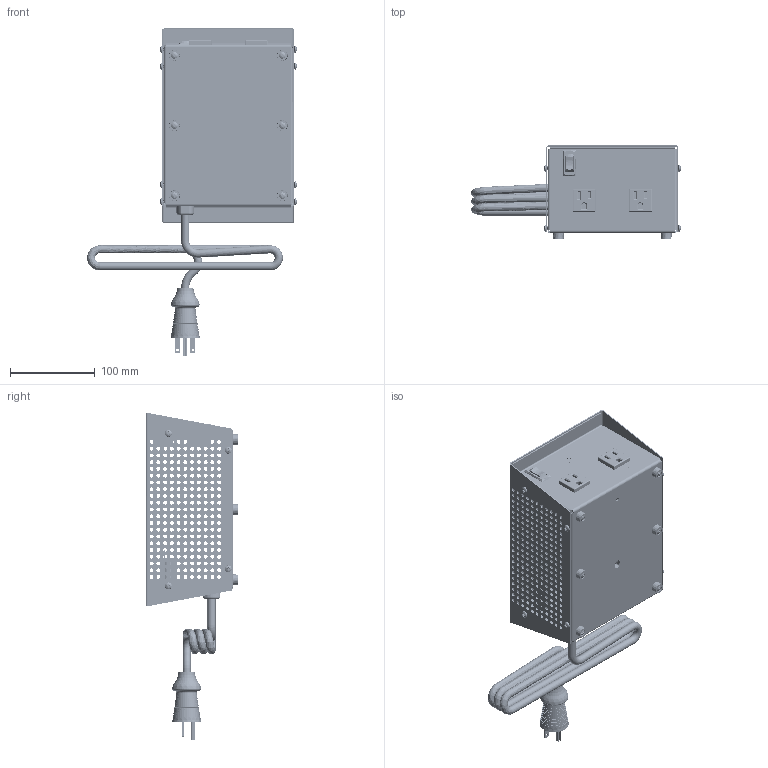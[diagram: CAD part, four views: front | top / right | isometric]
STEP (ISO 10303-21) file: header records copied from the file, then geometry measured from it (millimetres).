
FILE_DESCRIPTION(/* description */ (''),/* implementation_level */ '2;1');
FILE_NAME(/* name */ '289DT.stp',/* time_stamp */ '2026-06-02T15:23:34-04:00',/* author */ ('tfoster'),/* organization */ (''),/* preprocessor_version */ 'ST-DEVELOPER v20.1',/* originating_system */ 'Autodesk Inventor 2026',/* authorisation */ '');
FILE_SCHEMA (('AUTOMOTIVE_DESIGN { 1 0 10303 214 3 1 1 }'));
Products named in the file (11): 178ET; MTGR70760-2A; MTGR70763-1B; Receptacle; Power Switch Assembly; Power Switch; Power Switch pt; 240VAC plug; 5amp Reset Switch; Feet; 8-32 screw
Assembly tree (29 placements, depth 3):
  178ET
    MTGR70760-2A
    MTGR70763-1B
    Receptacle  x2
    Power Switch Assembly
      Power Switch
      Power Switch pt
    240VAC plug
    5amp Reset Switch
    Feet  x6
    8-32 screw  x14
Bounding box: 246.94 x 109.4 x 385.06 mm (x, y, z)
Volume: 381263.7 mm3; surface area: 365731.3 mm2
Topology: 28 solids, 28 shells, 2511 faces, 6837 edges, 4485 vertices
Faces by surface type: plane 1048, cylinder 1004, bspline 253, cone 145, torus 39, sphere 22
Full cylindrical faces by diameter (mm): 1 x1, 1.803 x3, 1.905 x2, 2.286 x1, 3.134 x98, 3.175 x2, 3.81 x8, 4.064 x6, 4.14 x1, 4.166 x84, 4.496 x462, 5.41 x6, 5.537 x8, 7.62 x6, 8.179 x14, 9.5 x5, 9.779 x1, 11 x1
Entity records: 59005 total; most frequent: CARTESIAN_POINT 14344, ORIENTED_EDGE 8958, DIRECTION 8236, EDGE_CURVE 4479, VERTEX_POINT 2935, AXIS2_PLACEMENT_3D 2760, EDGE_LOOP 2734, LINE 2716
